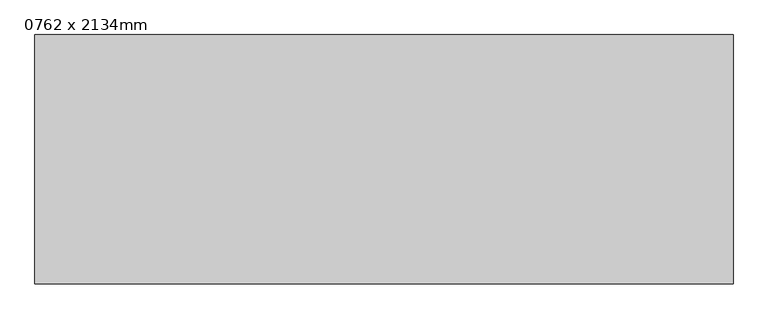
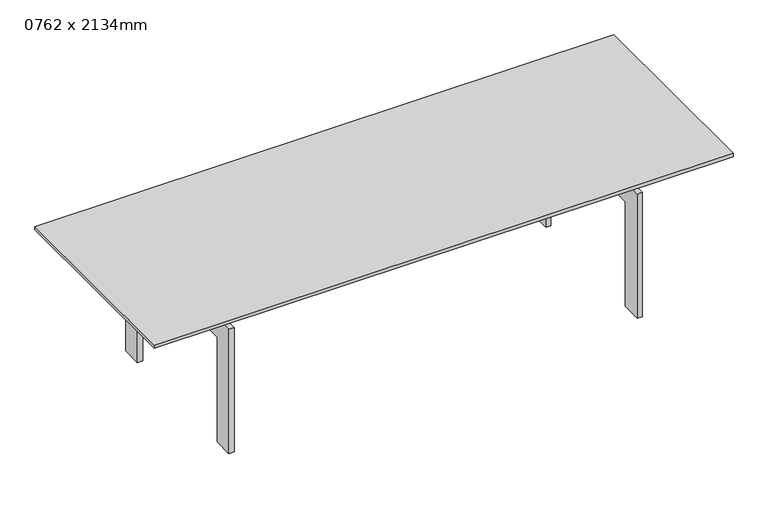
"""IFC4 building model written with IfcOpenShell, lengths in millimetres: furniture geometry, Pohovka_Tavolo-Pranzo : 0762 x 2134mm."""

from ifc_helpers import new_model, si_unit, frame, origin, place, context, project, spatial, polyline, outline, extrude, source, transform, mapped, element, save


def furniture_0762_x_2134mm_3327233b(model_context):
    return source(origin(), model_context, "Body", "SweptSolid", [
        extrude(outline(polyline([(983.6657667, 297.7823857), (983.6657667, 272.3823857), (-947.1342333, 272.3823857), (-947.1342333, 297.7823857), (983.6657667, 297.7823857)])), frame((0.0, 0.0, 483.8), z_axis=(0.0, 0.0, 1.0), x_axis=(1.0, 0.0, 0.0)), (0.0, 0.0, 1.0), 63.5),
        extrude(outline(polyline([(983.6657667, -82.5889222), (983.6657667, -107.9889222), (-947.1342333, -107.9889222), (-947.1342333, -82.5889222), (983.6657667, -82.5889222)])), frame((0.0, 0.0, 483.8), z_axis=(0.0, 0.0, 1.0), x_axis=(1.0, 0.0, 0.0)), (0.0, 0.0, 1.0), 63.5),
        extrude(outline(polyline([(425.4110778, 0.0), (349.2110778, 0.0), (349.2110778, 407.6), (-158.7889222, 407.6), (-158.7889222, 0.0), (-234.9889222, 0.0), (-234.9889222, 483.8), (425.4110778, 483.8), (425.4110778, 0.0)])), frame((761.4157667, 0.0, 0.0), z_axis=(1.0, 0.0, 0.0), x_axis=(0.0, 1.0, 0.0)), (0.0, 0.0, 1.0), 19.05),
        extrude(outline(polyline([(425.4110778, 483.8), (425.4110778, 0.0), (349.2110778, 0.0), (349.2110778, 407.6), (-158.7889222, 407.6), (-158.7889222, 0.0), (-234.9889222, 0.0), (-234.9889222, 483.8), (425.4110778, 483.8)])), frame((-743.9342333, 0.0, 0.0), z_axis=(1.0, 0.0, 0.0), x_axis=(0.0, 1.0, 0.0)), (0.0, 0.0, 1.0), 19.05),
        extrude(outline(polyline([(1085.2657667, 476.2110778), (1085.2657667, -285.7889222), (-1048.7342333, -285.7889222), (-1048.7342333, 476.2110778), (1085.2657667, 476.2110778)])), frame((0.0, 0.0, 547.3), z_axis=(0.0, 0.0, 1.0), x_axis=(1.0, 0.0, 0.0)), (0.0, 0.0, 1.0), 12.7),
    ])


if __name__ == "__main__":
    model = new_model("IFC4")
    model_context = context("Model", 3, world=origin())
    ifc_project = project(units=[si_unit("LENGTHUNIT", "METRE", prefix="MILLI")], contexts=[model_context])
    site = spatial("IfcSite", under=ifc_project)
    building = spatial("IfcBuilding", under=site)
    placement = place(None, origin())
    furniture_0762_x_2134mm_shape = furniture_0762_x_2134mm_3327233b(model_context)
    element("IfcFurniture", 1, ObjectType="Pohovka_Tavolo-Pranzo : 0762 x 2134mm", at=placement, inside=building, context=model_context, shape_type="MappedRepresentation", body=[
        mapped(furniture_0762_x_2134mm_shape, transform((0.0, 0.0, 0.0), x_axis=(1.0, 0.0, 0.0), y_axis=(0.0, 1.0, 0.0), z_axis=(0.0, 0.0, 1.0))),
    ])
    save(model, "model.ifc")
